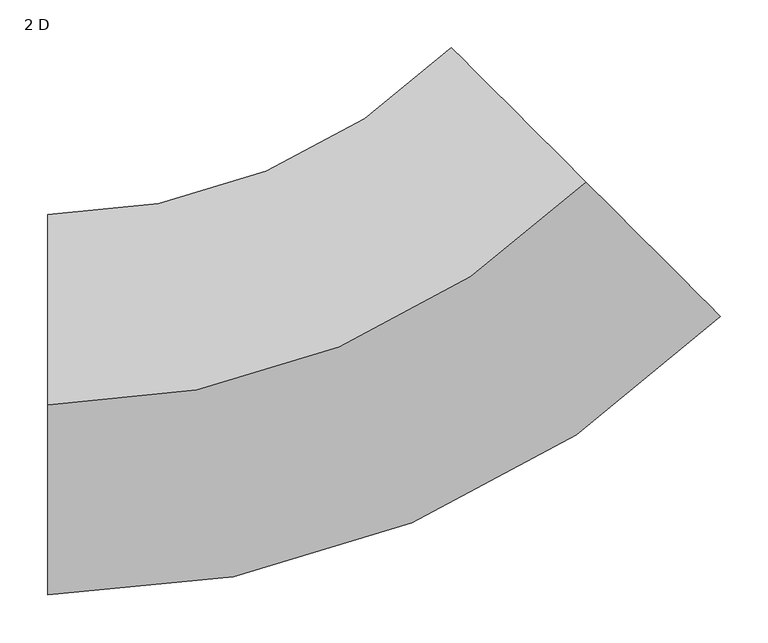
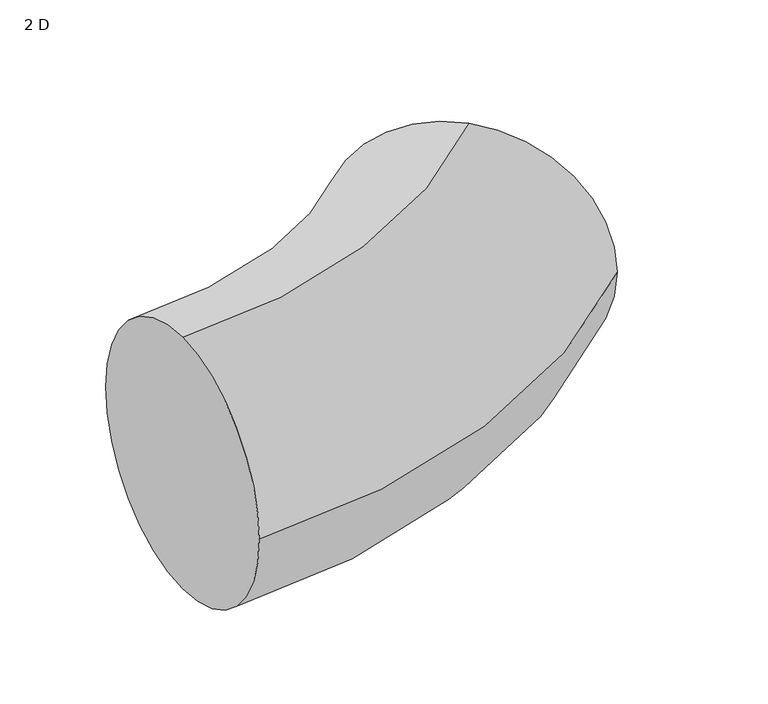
"""IFC4 building model written with IfcOpenShell, lengths in millimetres: duct fitting geometry, M_Cotovelo redondo : 2 D."""

from ifc_helpers import new_model, si_unit, point, frame, origin, place, context, project, spatial, circle_curve, ellipse_curve, trimmed, source, transform, mapped, element, save
from ifc_brep_helpers import plane_surface, revolved_surface, advanced_brep


def duct_fitting_2_d_9d61b47e(model_context):
    return source(origin(), model_context, "Body", "AdvancedBrep", [
        advanced_brep(
        [(-331.3708499, 0.0, 200.0), (-331.3708499, 200.0, 0.0), (-331.3708499, 0.0, -200.0), (-331.3708499, -200.0, 0.0), (234.3145751, 234.3145751, 200.0), (375.7359313, 92.8932188, 0.0), (234.3145751, 234.3145751, -200.0), (92.8932188, 375.7359313, 0.0)],
        [
            (0, 1, circle_curve(frame((-331.3708499, 0.0, 0.0), z_axis=(-1.0, 0.0, 0.0), x_axis=(0.0, 1.0, 0.0)), 200.0)),
            (1, 2, circle_curve(frame((-331.3708499, 0.0, 0.0), z_axis=(-1.0, 0.0, 0.0), x_axis=(0.0, 1.0, 0.0)), 200.0)),
            (2, 3, circle_curve(frame((-331.3708499, 0.0, 0.0), z_axis=(-1.0, 0.0, 0.0), x_axis=(0.0, 1.0, 0.0)), 200.0)),
            (3, 0, circle_curve(frame((-331.3708499, 0.0, 0.0), z_axis=(-1.0, 0.0, 0.0), x_axis=(0.0, 1.0, 0.0)), 200.0)),
            (4, 5, circle_curve(frame((234.3145751, 234.3145751, 0.0), z_axis=(0.7071067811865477, 0.7071067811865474, 0.0), x_axis=(-0.7071067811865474, 0.7071067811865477, 0.0)), 200.0)),
            (5, 6, circle_curve(frame((234.3145751, 234.3145751, 0.0), z_axis=(0.7071067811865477, 0.7071067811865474, 0.0), x_axis=(-0.7071067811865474, 0.7071067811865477, 0.0)), 200.0)),
            (6, 7, circle_curve(frame((234.3145751, 234.3145751, 0.0), z_axis=(0.7071067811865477, 0.7071067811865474, 0.0), x_axis=(-0.7071067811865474, 0.7071067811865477, 0.0)), 200.0)),
            (7, 4, circle_curve(frame((234.3145751, 234.3145751, 0.0), z_axis=(0.7071067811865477, 0.7071067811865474, 0.0), x_axis=(-0.7071067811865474, 0.7071067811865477, 0.0)), 200.0)),
            (7, 1, circle_curve(frame((-331.3708499, 800.0, 0.0), z_axis=(0.0, 0.0, -1.0), x_axis=(0.0, -1.0, 0.0)), 600.0)),
            (0, 4, circle_curve(frame((-331.3708499, 800.0, 200.0), z_axis=(0.0, 0.0, 1.0), x_axis=(0.0, -1.0, 0.0)), 800.0)),
            (6, 2, circle_curve(frame((-331.3708499, 800.0, -200.0), z_axis=(0.0, 0.0, -1.0), x_axis=(0.0, -1.0, 0.0)), 800.0)),
            (5, 3, circle_curve(frame((-331.3708499, 800.0, 0.0), z_axis=(0.0, 0.0, -1.0), x_axis=(0.0, -1.0, 0.0)), 1000.0)),
        ],
        [
            plane_surface(frame((-331.3708499, 0.0, 0.0), z_axis=(-1.0, 0.0, 0.0), x_axis=(0.0, 0.0, 1.0))),
            plane_surface(frame((234.3145751, 234.3145751, 0.0), z_axis=(0.7071067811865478, 0.7071067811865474, 0.0), x_axis=(0.0, 0.0, 1.0))),
            revolved_surface(trimmed(ellipse_curve(frame((-331.3708499, 0.0, 0.0), z_axis=(-1.0, 0.0, 0.0), x_axis=(0.0, 1.0, 0.0)), 200.0, 200.0), [point((-331.3708499, 0.0, 200.0))], [point((-331.3708499, 200.0, 0.0))], True, "CARTESIAN"), (-331.3708499, 800.0, 0.0), (0.0, 0.0, 1.0)),
            revolved_surface(trimmed(ellipse_curve(frame((-331.3708499, 0.0, 0.0), z_axis=(-1.0, 0.0, 0.0), x_axis=(0.0, 1.0, 0.0)), 200.0, 200.0), [point((-331.3708499, 200.0, 0.0))], [point((-331.3708499, 0.0, -200.0))], True, "CARTESIAN"), (-331.3708499, 800.0, 0.0), (0.0, 0.0, 1.0)),
            revolved_surface(trimmed(ellipse_curve(frame((-331.3708499, 0.0, 0.0), z_axis=(-1.0, 0.0, 0.0), x_axis=(0.0, 1.0, 0.0)), 200.0, 200.0), [point((-331.3708499, 0.0, -200.0))], [point((-331.3708499, -200.0, 0.0))], True, "CARTESIAN"), (-331.3708499, 800.0, 0.0), (0.0, 0.0, 1.0)),
            revolved_surface(trimmed(ellipse_curve(frame((-331.3708499, 0.0, 0.0), z_axis=(-1.0, 0.0, 0.0), x_axis=(0.0, 1.0, 0.0)), 200.0, 200.0), [point((-331.3708499, -200.0, 0.0))], [point((-331.3708499, 0.0, 200.0))], True, "CARTESIAN"), (-331.3708499, 800.0, 0.0), (0.0, 0.0, 1.0)),
        ],
        [
            (0, [[1, 2, 3, 4]]),
            (1, [[5, 6, 7, 8]]),
            (2, [[9, -1, 10, -8]]),
            (3, [[11, -2, -9, -7]]),
            (4, [[12, -3, -11, -6]]),
            (5, [[-10, -4, -12, -5]]),
        ],
    ),
    ])


if __name__ == "__main__":
    model = new_model("IFC4")
    model_context = context("Model", 3, world=origin())
    ifc_project = project(units=[si_unit("LENGTHUNIT", "METRE", prefix="MILLI")], contexts=[model_context])
    site = spatial("IfcSite", under=ifc_project)
    building = spatial("IfcBuilding", under=site)
    placement = place(None, origin())
    duct_fitting_2_d_shape = duct_fitting_2_d_9d61b47e(model_context)
    element("IfcDuctFitting", 1, ObjectType="M_Cotovelo redondo : 2 D", at=placement, inside=building, context=model_context, shape_type="MappedRepresentation", body=[
        mapped(duct_fitting_2_d_shape, transform((0.0, 0.0, 0.0), x_axis=(1.0, 0.0, 0.0), y_axis=(0.0, 1.0, 0.0), z_axis=(0.0, 0.0, 1.0))),
    ])
    save(model, "model.ifc")
